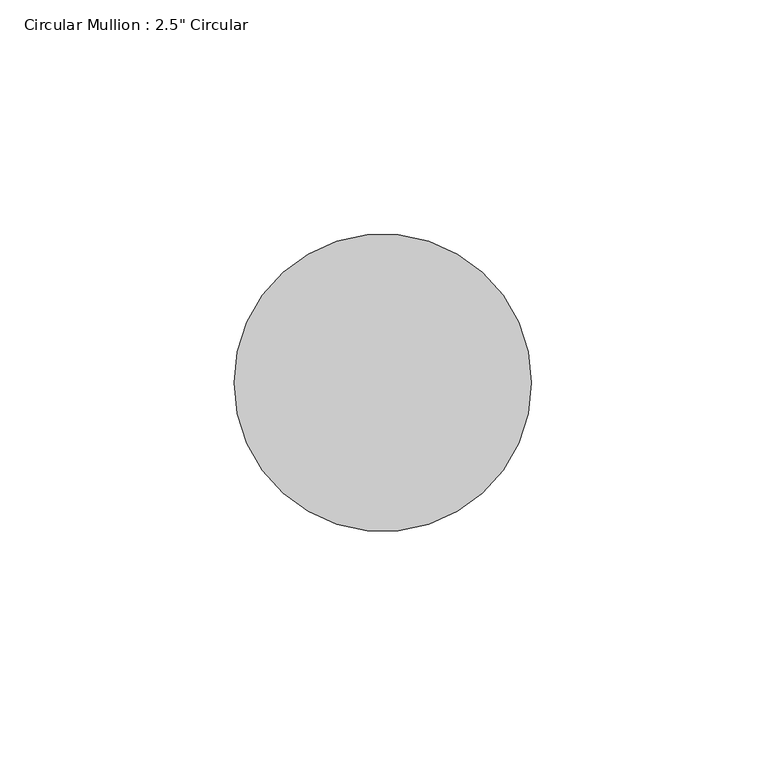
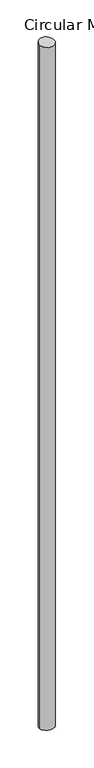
"""IFC4 building model written with IfcOpenShell, lengths in millimetres: member geometry."""

from ifc_helpers import new_model, si_unit, frame, origin, origin_with_axes, place, context, project, spatial, ellipse_curve, source, transform, mapped, element, save
from ifc_brep_helpers import plane_surface, cylinder_surface, advanced_brep


def member_1d8f96ff(model_context):
    return source(origin(), model_context, "Body", "AdvancedBrep", [
        advanced_brep(
        [(-31.75, 0.0, 0.8742013), (31.75, 0.0, -0.8742013), (31.75, 0.0, -3043.9835016), (-31.75, 0.0, -3046.0044399)],
        [
            (0, 1, ellipse_curve(frame((0.0, 0.0, 0.0), z_axis=(-0.027440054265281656, 0.07779595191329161, -0.9965916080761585), x_axis=(-0.33149944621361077, 0.9398419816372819, 0.08249343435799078)), 31.8585865, 31.75)),
            (1, 2),
            (2, 3, ellipse_curve(frame((0.0, 0.0, -3044.9939708), z_axis=(-0.03167910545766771, 0.09051958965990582, 0.9953906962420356), x_axis=(0.3288023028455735, -0.9395167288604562, 0.09590287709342)), 31.8970231, 31.75)),
            (3, 0),
            (1, 0, ellipse_curve(frame((0.0, 0.0, 0.0), z_axis=(-0.027440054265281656, 0.07779595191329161, -0.9965916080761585), x_axis=(-0.33149944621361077, 0.9398419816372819, 0.08249343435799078)), 31.8585865, 31.75)),
            (3, 2, ellipse_curve(frame((0.0, 0.0, -3044.9939708), z_axis=(-0.03167910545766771, 0.09051958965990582, 0.9953906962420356), x_axis=(0.3288023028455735, -0.9395167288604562, 0.09590287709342)), 31.8970231, 31.75)),
        ],
        [
            cylinder_surface(origin_with_axes(), 31.75),
            plane_surface(frame((287.4435563, 101.3865965, 0.0), z_axis=(0.027440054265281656, -0.07779595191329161, 0.9965916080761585), x_axis=(0.3314994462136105, -0.9398419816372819, -0.08249343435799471))),
            plane_surface(frame((287.690753, 100.6830205, -3044.9939708), z_axis=(0.03167910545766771, -0.09051958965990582, -0.9953906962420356), x_axis=(0.32880230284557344, -0.9395167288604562, 0.09590287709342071))),
        ],
        [
            (0, [[1, 2, 3, 4]]),
            (0, [[5, -4, 6, -2]]),
            (1, [[-1, -5]]),
            (2, [[-6, -3]]),
        ],
    ),
    ])


if __name__ == "__main__":
    model = new_model("IFC4")
    model_context = context("Model", 3, world=origin())
    ifc_project = project(units=[si_unit("LENGTHUNIT", "METRE", prefix="MILLI")], contexts=[model_context])
    site = spatial("IfcSite", under=ifc_project)
    building = spatial("IfcBuilding", under=site)
    placement = place(None, origin())
    member_shape = member_1d8f96ff(model_context)
    element("IfcMember", 1, ObjectType="Circular Mullion : 2.5\" Circular", at=placement, inside=building, context=model_context, shape_type="MappedRepresentation", body=[
        mapped(member_shape, transform((0.0, 0.0, 0.0), x_axis=(1.0, 0.0, 0.0), y_axis=(0.0, 1.0, 0.0), z_axis=(0.0, 0.0, 1.0))),
    ])
    save(model, "model.ifc")
